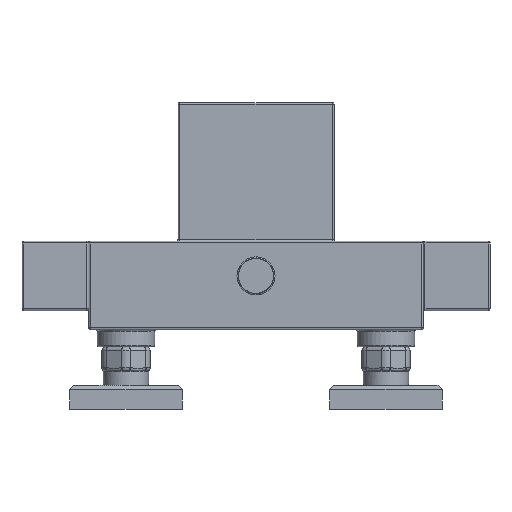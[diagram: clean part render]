
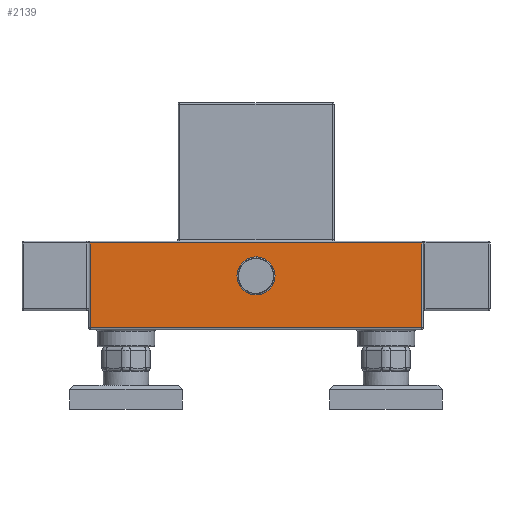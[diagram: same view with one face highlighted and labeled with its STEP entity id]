
A CAD part, front view. The second image highlights one B-rep face of the part: STEP entity #2139.
In plain terms, the highlighted planar face has unit normal (0, -1, 0).
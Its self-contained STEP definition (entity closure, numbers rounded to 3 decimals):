
#278 = ORIENTED_EDGE ( 'NONE', *, *, #4733, .T. ) ;
#590 = DIRECTION ( 'NONE',  ( 0., 0., 1. ) ) ;
#1434 = CARTESIAN_POINT ( 'NONE',  ( -95.5, -20., 96. ) ) ;
#1655 = DIRECTION ( 'NONE',  ( 0., 0., 1. ) ) ;
#2007 = VECTOR ( 'NONE', #6035, 1000. ) ;
#2067 = VERTEX_POINT ( 'NONE', #1434 ) ;
#2109 = EDGE_LOOP ( 'NONE', ( #8984, #278 ) ) ;
#2139 = ADVANCED_FACE ( 'NONE', ( #12244, #3672 ), #7420, .F. ) ;
#2206 = EDGE_LOOP ( 'NONE', ( #11845, #2278, #4630, #12316 ) ) ;
#2251 = CARTESIAN_POINT ( 'NONE',  ( 95.5, -20., 47. ) ) ;
#2278 = ORIENTED_EDGE ( 'NONE', *, *, #10834, .T. ) ;
#2305 = CARTESIAN_POINT ( 'NONE',  ( -96.5, -20., 96. ) ) ;
#2492 = VECTOR ( 'NONE', #8241, 1000. ) ;
#2557 = EDGE_CURVE ( 'NONE', #3753, #2067, #4743, .T. ) ;
#3672 = FACE_BOUND ( 'NONE', #2109, .T. ) ;
#3753 = VERTEX_POINT ( 'NONE', #12634 ) ;
#3806 = LINE ( 'NONE', #8612, #7750 ) ;
#4514 = AXIS2_PLACEMENT_3D ( 'NONE', #9478, #8368, #1655 ) ;
#4630 = ORIENTED_EDGE ( 'NONE', *, *, #6893, .T. ) ;
#4733 = EDGE_CURVE ( 'NONE', #8572, #11646, #11448, .T. ) ;
#4743 = LINE ( 'NONE', #2305, #2007 ) ;
#4810 = DIRECTION ( 'NONE',  ( 0., 0., -1. ) ) ;
#5193 = DIRECTION ( 'NONE',  ( 0., 0., 1. ) ) ;
#5372 = AXIS2_PLACEMENT_3D ( 'NONE', #7335, #11307, #590 ) ;
#5647 = DIRECTION ( 'NONE',  ( 0., 1., 0. ) ) ;
#6035 = DIRECTION ( 'NONE',  ( -1., 0., 0. ) ) ;
#6121 = CARTESIAN_POINT ( 'NONE',  ( -95.5, -20., 47. ) ) ;
#6345 = CIRCLE ( 'NONE', #5372, 11. ) ;
#6597 = CARTESIAN_POINT ( 'NONE',  ( 0., -20., 66. ) ) ;
#6702 = LINE ( 'NONE', #10101, #11486 ) ;
#6731 = CARTESIAN_POINT ( 'NONE',  ( 0., -20., 88. ) ) ;
#6893 = EDGE_CURVE ( 'NONE', #11836, #10633, #7191, .T. ) ;
#7191 = LINE ( 'NONE', #11217, #2492 ) ;
#7335 = CARTESIAN_POINT ( 'NONE',  ( 0., -20., 77. ) ) ;
#7420 = PLANE ( 'NONE',  #4514 ) ;
#7750 = VECTOR ( 'NONE', #4810, 1000. ) ;
#8241 = DIRECTION ( 'NONE',  ( 1., 0., 0. ) ) ;
#8368 = DIRECTION ( 'NONE',  ( 0., 1., 0. ) ) ;
#8572 = VERTEX_POINT ( 'NONE', #6597 ) ;
#8612 = CARTESIAN_POINT ( 'NONE',  ( -95.5, -20., 97. ) ) ;
#8613 = DIRECTION ( 'NONE',  ( 0., 0., 1. ) ) ;
#8941 = EDGE_CURVE ( 'NONE', #10633, #3753, #6702, .T. ) ;
#8984 = ORIENTED_EDGE ( 'NONE', *, *, #11380, .T. ) ;
#9478 = CARTESIAN_POINT ( 'NONE',  ( -96.5, -20., 97. ) ) ;
#10101 = CARTESIAN_POINT ( 'NONE',  ( 95.5, -20., 97. ) ) ;
#10627 = CARTESIAN_POINT ( 'NONE',  ( 0., -20., 77. ) ) ;
#10633 = VERTEX_POINT ( 'NONE', #2251 ) ;
#10834 = EDGE_CURVE ( 'NONE', #2067, #11836, #3806, .T. ) ;
#11217 = CARTESIAN_POINT ( 'NONE',  ( 96.5, -20., 47. ) ) ;
#11307 = DIRECTION ( 'NONE',  ( 0., 1., 0. ) ) ;
#11380 = EDGE_CURVE ( 'NONE', #11646, #8572, #6345, .T. ) ;
#11406 = AXIS2_PLACEMENT_3D ( 'NONE', #10627, #5647, #8613 ) ;
#11448 = CIRCLE ( 'NONE', #11406, 11. ) ;
#11486 = VECTOR ( 'NONE', #5193, 1000. ) ;
#11646 = VERTEX_POINT ( 'NONE', #6731 ) ;
#11836 = VERTEX_POINT ( 'NONE', #6121 ) ;
#11845 = ORIENTED_EDGE ( 'NONE', *, *, #2557, .T. ) ;
#12244 = FACE_OUTER_BOUND ( 'NONE', #2206, .T. ) ;
#12316 = ORIENTED_EDGE ( 'NONE', *, *, #8941, .T. ) ;
#12634 = CARTESIAN_POINT ( 'NONE',  ( 95.5, -20., 96. ) ) ;
